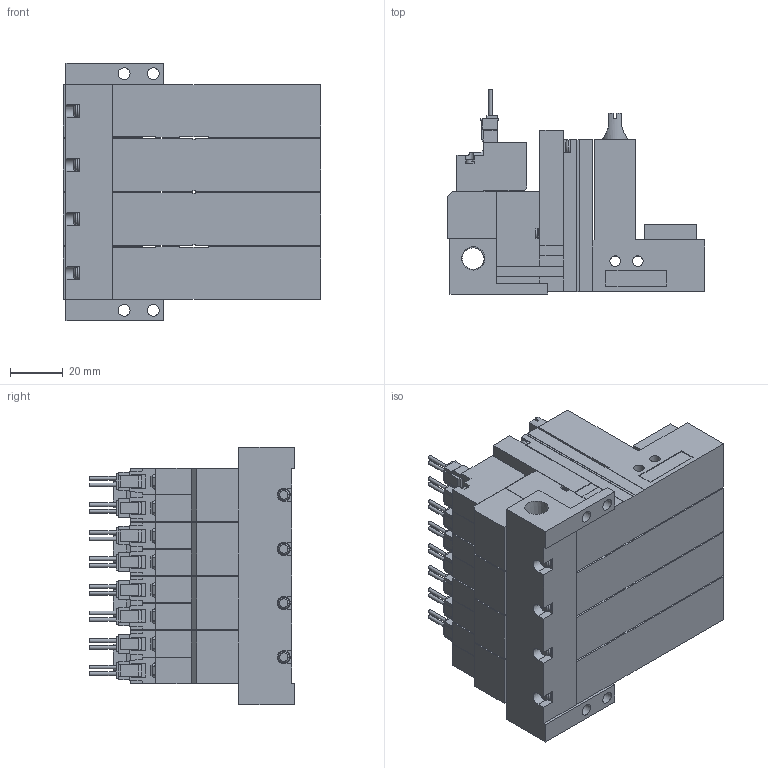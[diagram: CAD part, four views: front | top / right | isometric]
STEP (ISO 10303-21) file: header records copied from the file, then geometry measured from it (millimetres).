
FILE_DESCRIPTION(('STEP AP203'),'1');
FILE_NAME('ZLC5BLR404.stp','2025-02-18T23:28:24',(' '),(' '),'Spatial InterOp 3D',' ',' ');
FILE_SCHEMA(('CONFIG_CONTROL_DESIGN'));
Length unit declared in the file: millimetre
Products named in the file (5): BMC22M※※※※ZLC5BLR404; Solenoid valve B; Pressure sensor ZLC; Unit LC; Base MR40R
Assembly tree (13 placements, depth 2):
  BMC22M※※※※ZLC5BLR404
    Solenoid valve B  x4
    Pressure sensor ZLC  x4
    Unit LC  x4
    Base MR40R
Bounding box: 97.6 x 77.45 x 97.5 mm (x, y, z)
Volume: 358009.2 mm3; surface area: 95473.4 mm2
Topology: 13 solids, 13 shells, 1453 faces, 3951 edges, 2596 vertices
Faces by surface type: plane 1254, cylinder 149, cone 30, torus 20
Full cylindrical faces by diameter (mm): 1.4 x16, 2.5 x4, 3 x16, 3.5 x16, 3.6 x4, 4 x8, 4.134 x4, 4.5 x4, 5.2 x4, 6 x4, 6.6 x4, 8.279 x1
Entity records: 13368 total; most frequent: CARTESIAN_POINT 2561, ORIENTED_EDGE 2116, DIRECTION 2106, EDGE_CURVE 1058, LINE 878, VECTOR 878, VERTEX_POINT 733, AXIS2_PLACEMENT_3D 614
